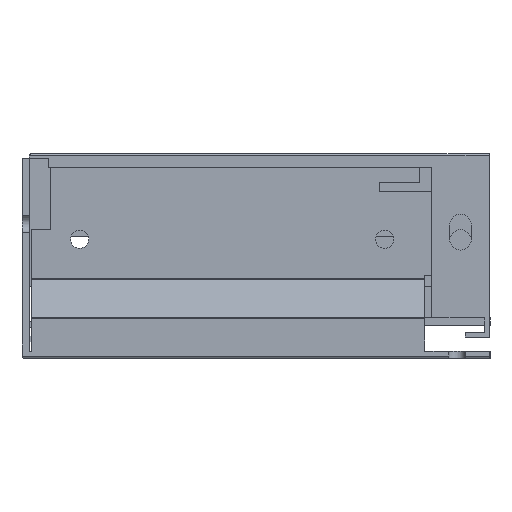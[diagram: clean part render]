
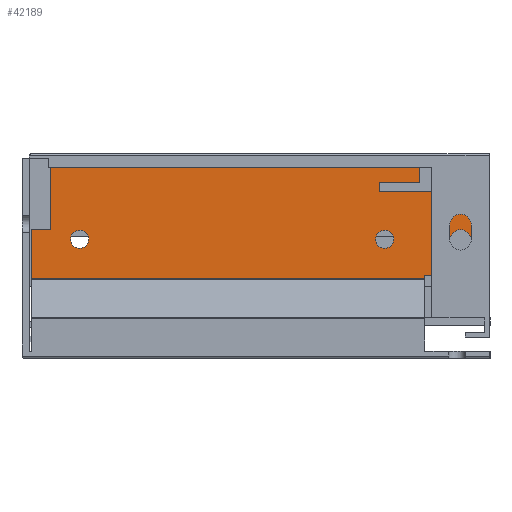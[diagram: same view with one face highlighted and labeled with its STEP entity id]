
A CAD part, left-side view. The second image highlights one B-rep face of the part: STEP entity #42189.
In plain terms, the highlighted planar face has unit normal (-1, 0, 0).
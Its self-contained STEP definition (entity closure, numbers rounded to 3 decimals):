
#13879=DIRECTION('',(0.,0.,-1.));
#13880=VECTOR('',#13879,10.264);
#13881=CARTESIAN_POINT('',(9.499,96.,-12.));
#13882=LINE('',#13881,#13880);
#13883=DIRECTION('',(0.,0.,1.));
#13884=VECTOR('',#13883,0.764);
#13885=CARTESIAN_POINT('',(9.499,13.5,-22.264));
#13886=LINE('',#13885,#13884);
#13887=CARTESIAN_POINT('',(9.499,21.9,-14.));
#13888=DIRECTION('',(1.,0.,0.));
#13889=DIRECTION('',(0.,1.,0.));
#13890=AXIS2_PLACEMENT_3D('',#13887,#13888,#13889);
#13892=CARTESIAN_POINT('',(9.499,21.9,-14.));
#13893=DIRECTION('',(1.,0.,0.));
#13894=DIRECTION('',(0.,-1.,0.));
#13895=AXIS2_PLACEMENT_3D('',#13892,#13893,#13894);
#13897=CARTESIAN_POINT('',(9.499,6.,-14.25));
#13898=DIRECTION('',(1.,0.,0.));
#13899=DIRECTION('',(0.,1.,0.));
#13900=AXIS2_PLACEMENT_3D('',#13897,#13898,#13899);
#13902=CARTESIAN_POINT('',(9.499,6.,-16.75));
#13903=DIRECTION('',(1.,0.,0.));
#13904=DIRECTION('',(0.,-1.,0.));
#13905=AXIS2_PLACEMENT_3D('',#13902,#13903,#13904);
#13907=CARTESIAN_POINT('',(9.499,85.9,-14.));
#13908=DIRECTION('',(1.,0.,0.));
#13909=DIRECTION('',(0.,1.,0.));
#13910=AXIS2_PLACEMENT_3D('',#13907,#13908,#13909);
#13912=CARTESIAN_POINT('',(9.499,85.9,-14.));
#13913=DIRECTION('',(1.,0.,0.));
#13914=DIRECTION('',(0.,-1.,0.));
#13915=AXIS2_PLACEMENT_3D('',#13912,#13913,#13914);
#13921=DIRECTION('',(0.,1.,0.));
#13922=VECTOR('',#13921,82.5);
#13923=CARTESIAN_POINT('',(9.499,13.5,-22.264));
#13924=LINE('',#13923,#13922);
#13956=DIRECTION('',(0.,-1.,0.));
#13957=VECTOR('',#13956,11.);
#13958=CARTESIAN_POINT('',(9.499,13.5,-21.5));
#13959=LINE('',#13958,#13957);
#13968=DIRECTION('',(0.,0.,1.));
#13969=VECTOR('',#13968,17.5);
#13970=CARTESIAN_POINT('',(9.499,2.5,-21.5));
#13971=LINE('',#13970,#13969);
#13980=DIRECTION('',(0.,1.,0.));
#13981=VECTOR('',#13980,20.5);
#13982=CARTESIAN_POINT('',(9.499,2.5,-4.));
#13983=LINE('',#13982,#13981);
#13992=DIRECTION('',(0.,0.,1.));
#13993=VECTOR('',#13992,2.);
#13994=CARTESIAN_POINT('',(9.499,23.,-4.));
#13995=LINE('',#13994,#13993);
#14004=DIRECTION('',(0.,-1.,0.));
#14005=VECTOR('',#14004,8.5);
#14006=CARTESIAN_POINT('',(9.499,23.,-2.));
#14007=LINE('',#14006,#14005);
#14016=DIRECTION('',(0.,0.,1.));
#14017=VECTOR('',#14016,4.);
#14018=CARTESIAN_POINT('',(9.499,14.5,-2.));
#14019=LINE('',#14018,#14017);
#14032=DIRECTION('',(0.,1.,0.));
#14033=VECTOR('',#14032,77.5);
#14034=CARTESIAN_POINT('',(9.499,14.5,2.));
#14035=LINE('',#14034,#14033);
#14040=DIRECTION('',(0.,0.,-1.));
#14041=VECTOR('',#14040,14.);
#14042=CARTESIAN_POINT('',(9.499,92.,2.));
#14043=LINE('',#14042,#14041);
#14056=DIRECTION('',(0.,1.,0.));
#14057=VECTOR('',#14056,4.);
#14058=CARTESIAN_POINT('',(9.499,92.,-12.));
#14059=LINE('',#14058,#14057);
#14112=DIRECTION('',(0.,0.,1.));
#14113=VECTOR('',#14112,2.5);
#14114=CARTESIAN_POINT('',(9.499,8.25,-16.75));
#14115=LINE('',#14114,#14113);
#14128=DIRECTION('',(0.,0.,-1.));
#14129=VECTOR('',#14128,2.5);
#14130=CARTESIAN_POINT('',(9.499,3.75,-14.25));
#14131=LINE('',#14130,#14129);
#18849=CARTESIAN_POINT('',(9.499,96.,-22.264));
#18850=VERTEX_POINT('',#18849);
#18851=CARTESIAN_POINT('',(9.499,96.,-12.));
#18852=VERTEX_POINT('',#18851);
#18903=CARTESIAN_POINT('',(9.499,13.5,-21.5));
#18904=VERTEX_POINT('',#18903);
#18905=CARTESIAN_POINT('',(9.499,13.5,-22.264));
#18906=VERTEX_POINT('',#18905);
#18909=CARTESIAN_POINT('',(9.499,92.,-12.));
#18910=VERTEX_POINT('',#18909);
#18911=CARTESIAN_POINT('',(9.499,92.,2.));
#18912=VERTEX_POINT('',#18911);
#18913=CARTESIAN_POINT('',(9.499,14.5,2.));
#18914=VERTEX_POINT('',#18913);
#18915=CARTESIAN_POINT('',(9.499,14.5,-2.));
#18916=VERTEX_POINT('',#18915);
#18917=CARTESIAN_POINT('',(9.499,23.,-2.));
#18918=VERTEX_POINT('',#18917);
#18919=CARTESIAN_POINT('',(9.499,23.,-4.));
#18920=VERTEX_POINT('',#18919);
#18921=CARTESIAN_POINT('',(9.499,2.5,-4.));
#18922=VERTEX_POINT('',#18921);
#18923=CARTESIAN_POINT('',(9.499,2.5,-21.5));
#18924=VERTEX_POINT('',#18923);
#18925=CARTESIAN_POINT('',(9.499,23.8,-14.));
#18926=CARTESIAN_POINT('',(9.499,20.,-14.));
#18927=VERTEX_POINT('',#18925);
#18928=VERTEX_POINT('',#18926);
#18929=CARTESIAN_POINT('',(9.499,8.25,-14.25));
#18930=CARTESIAN_POINT('',(9.499,3.75,-14.25));
#18931=VERTEX_POINT('',#18929);
#18932=VERTEX_POINT('',#18930);
#18933=CARTESIAN_POINT('',(9.499,8.25,-16.75));
#18934=VERTEX_POINT('',#18933);
#18935=CARTESIAN_POINT('',(9.499,3.75,-16.75));
#18936=VERTEX_POINT('',#18935);
#18937=CARTESIAN_POINT('',(9.499,87.8,-14.));
#18938=CARTESIAN_POINT('',(9.499,84.,-14.));
#18939=VERTEX_POINT('',#18937);
#18940=VERTEX_POINT('',#18938);
#42139=CARTESIAN_POINT('',(9.499,49.25,-10.132));
#42140=DIRECTION('',(1.,0.,0.));
#42141=DIRECTION('',(0.,0.,-1.));
#42142=AXIS2_PLACEMENT_3D('',#42139,#42140,#42141);
#42143=PLANE('',#42142);
#42145=ORIENTED_EDGE('',*,*,#42144,.T.);
#42146=ORIENTED_EDGE('',*,*,#31575,.F.);
#42148=ORIENTED_EDGE('',*,*,#42147,.F.);
#42150=ORIENTED_EDGE('',*,*,#42149,.F.);
#42152=ORIENTED_EDGE('',*,*,#42151,.F.);
#42154=ORIENTED_EDGE('',*,*,#42153,.F.);
#42156=ORIENTED_EDGE('',*,*,#42155,.F.);
#42158=ORIENTED_EDGE('',*,*,#42157,.F.);
#42160=ORIENTED_EDGE('',*,*,#42159,.F.);
#42162=ORIENTED_EDGE('',*,*,#42161,.F.);
#42164=ORIENTED_EDGE('',*,*,#42163,.F.);
#42166=ORIENTED_EDGE('',*,*,#42165,.F.);
#42167=EDGE_LOOP('',(#42145,#42146,#42148,#42150,#42152,#42154,#42156,#42158,
#42160,#42162,#42164,#42166));
#42168=FACE_OUTER_BOUND('',#42167,.F.);
#42169=ORIENTED_EDGE('',*,*,#42119,.F.);
#42170=ORIENTED_EDGE('',*,*,#42133,.F.);
#42171=EDGE_LOOP('',(#42169,#42170));
#42172=FACE_BOUND('',#42171,.F.);
#42174=ORIENTED_EDGE('',*,*,#42173,.F.);
#42176=ORIENTED_EDGE('',*,*,#42175,.F.);
#42178=ORIENTED_EDGE('',*,*,#42177,.F.);
#42180=ORIENTED_EDGE('',*,*,#42179,.F.);
#42181=EDGE_LOOP('',(#42174,#42176,#42178,#42180));
#42182=FACE_BOUND('',#42181,.F.);
#42184=ORIENTED_EDGE('',*,*,#42183,.F.);
#42186=ORIENTED_EDGE('',*,*,#42185,.F.);
#42187=EDGE_LOOP('',(#42184,#42186));
#42188=FACE_BOUND('',#42187,.F.);
#42189=ADVANCED_FACE('',(#42168,#42172,#42182,#42188),#42143,.F.);
#13891=CIRCLE('',#13890,1.9);
#13896=CIRCLE('',#13895,1.9);
#13901=CIRCLE('',#13900,2.25);
#13906=CIRCLE('',#13905,2.25);
#13911=CIRCLE('',#13910,1.9);
#13916=CIRCLE('',#13915,1.9);
#31575=EDGE_CURVE('',#18852,#18850,#13882,.T.);
#42119=EDGE_CURVE('',#18927,#18928,#13891,.T.);
#42133=EDGE_CURVE('',#18928,#18927,#13896,.T.);
#42144=EDGE_CURVE('',#18906,#18850,#13924,.T.);
#42147=EDGE_CURVE('',#18910,#18852,#14059,.T.);
#42149=EDGE_CURVE('',#18912,#18910,#14043,.T.);
#42151=EDGE_CURVE('',#18914,#18912,#14035,.T.);
#42153=EDGE_CURVE('',#18916,#18914,#14019,.T.);
#42155=EDGE_CURVE('',#18918,#18916,#14007,.T.);
#42157=EDGE_CURVE('',#18920,#18918,#13995,.T.);
#42159=EDGE_CURVE('',#18922,#18920,#13983,.T.);
#42161=EDGE_CURVE('',#18924,#18922,#13971,.T.);
#42163=EDGE_CURVE('',#18904,#18924,#13959,.T.);
#42165=EDGE_CURVE('',#18906,#18904,#13886,.T.);
#42173=EDGE_CURVE('',#18931,#18932,#13901,.T.);
#42175=EDGE_CURVE('',#18934,#18931,#14115,.T.);
#42177=EDGE_CURVE('',#18936,#18934,#13906,.T.);
#42179=EDGE_CURVE('',#18932,#18936,#14131,.T.);
#42183=EDGE_CURVE('',#18939,#18940,#13911,.T.);
#42185=EDGE_CURVE('',#18940,#18939,#13916,.T.);
